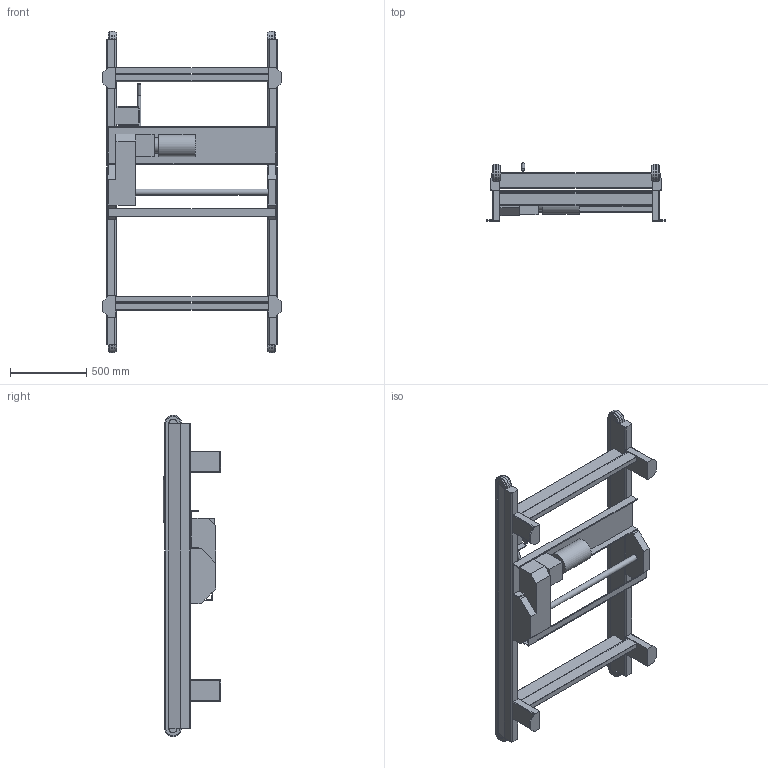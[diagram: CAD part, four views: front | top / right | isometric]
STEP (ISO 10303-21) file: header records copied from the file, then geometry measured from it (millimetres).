
FILE_DESCRIPTION((''),'2;1');
FILE_NAME('C:\Vault_Working_Folder\Designs\Inventor\Lättviktsmodeller\Maxi\IKDS 80-1050-2000.stp','2012-11-12T16:07:41',('martin.samuelsson'),(''),'Autodesk Inventor 2013','Autodesk Inventor 2013','');
FILE_SCHEMA(('AUTOMOTIVE_DESIGN { 1 0 10303 214 1 1 1 1 }'));
Length unit declared in the file: millimetre
Products named in the file (1): IKDS 80-1050-2000
Bounding box: 1170 x 379.97 x 2111 mm (x, y, z)
Volume: 80581875.5 mm3; surface area: 5466838.5 mm2
Topology: 5 solids, 5 shells, 238 faces, 645 edges, 422 vertices
Faces by surface type: plane 182, cylinder 56
Full cylindrical faces by diameter (mm): 20 x3, 40 x1, 100 x1, 145 x1
Entity records: 7569 total; most frequent: CARTESIAN_POINT 1300, ORIENTED_EDGE 1278, DIRECTION 1231, EDGE_CURVE 639, VECTOR 525, LINE 525, VERTEX_POINT 422, AXIS2_PLACEMENT_3D 353
